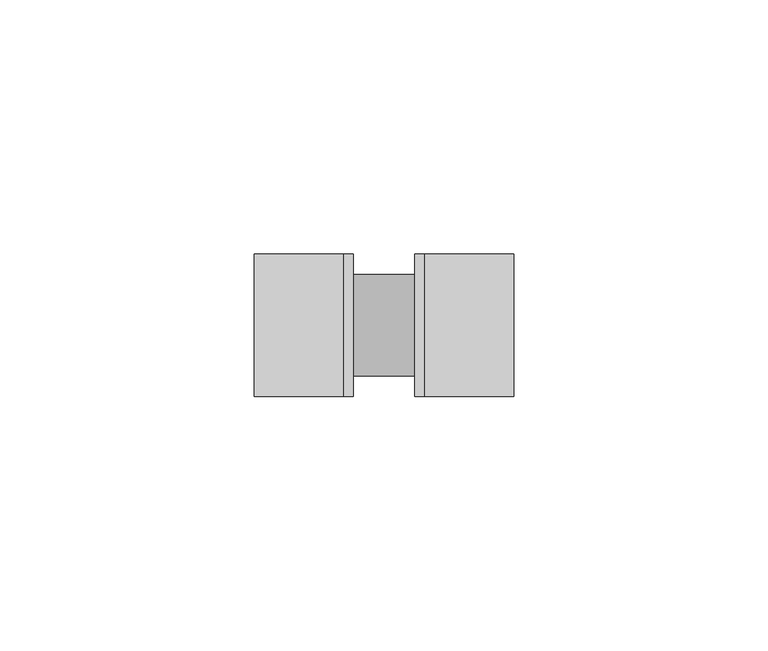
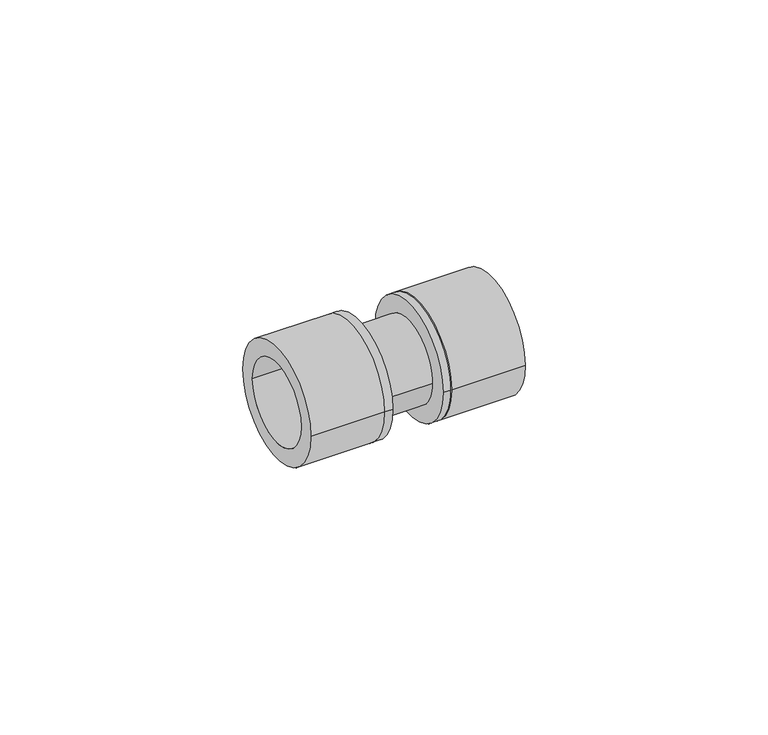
"""IFC4 building model written with IfcOpenShell, lengths in millimetres: pipe fitting geometry, ADSK_Пресс-фитинг ПЭ_Муфта соединительная : Пластик черный."""

from ifc_helpers import new_model, si_unit, point, frame, origin, origin_2d, place, context, project, spatial, circle_curve, trimmed, segment, composite_curve, outline, extrude, source, transform, mapped, element, save


def pipe_fitting_f18aa7d6(model_context):
    return source(origin(), model_context, "Body", "SweptSolid", [
        extrude(outline(composite_curve([segment(trimmed(circle_curve(origin_2d(), 14.0), [point((-14.0, 0.0))], [point((14.0, 0.0))], False, "CARTESIAN"), True, "CONTINUOUS"), segment(trimmed(circle_curve(origin_2d(), 14.0), [point((14.0, 0.0))], [point((-14.0, 0.0))], False, "CARTESIAN"), True, "CONTINUOUS")], self_intersect=False), holes=[composite_curve([segment(trimmed(circle_curve(origin_2d(), 10.0), [point((-10.0, 0.0))], [point((10.0, 0.0))], True, "CARTESIAN"), True, "CONTINUOUS"), segment(trimmed(circle_curve(origin_2d(), 10.0), [point((10.0, 0.0))], [point((-10.0, 0.0))], True, "CARTESIAN"), True, "CONTINUOUS")], self_intersect=False)]), frame((8.0, 0.0, 0.0), z_axis=(1.0, 0.0, 0.0), x_axis=(0.0, 1.0, 0.0)), (0.0, 0.0, 1.0), 17.5),
        extrude(outline(composite_curve([segment(trimmed(circle_curve(origin_2d(), 14.0), [point((-14.0, 0.0))], [point((14.0, 0.0))], False, "CARTESIAN"), True, "CONTINUOUS"), segment(trimmed(circle_curve(origin_2d(), 14.0), [point((14.0, 0.0))], [point((-14.0, 0.0))], False, "CARTESIAN"), True, "CONTINUOUS")], self_intersect=False), holes=[composite_curve([segment(trimmed(circle_curve(origin_2d(), 10.0), [point((-10.0, 0.0))], [point((10.0, 0.0))], True, "CARTESIAN"), True, "CONTINUOUS"), segment(trimmed(circle_curve(origin_2d(), 10.0), [point((10.0, 0.0))], [point((-10.0, 0.0))], True, "CARTESIAN"), True, "CONTINUOUS")], self_intersect=False)]), frame((-25.5, 0.0, 0.0), z_axis=(1.0, 0.0, 0.0), x_axis=(0.0, 1.0, 0.0)), (0.0, 0.0, 1.0), 17.5),
        extrude(outline(composite_curve([segment(trimmed(circle_curve(origin_2d(), 14.0), [point((-14.0, 0.0))], [point((14.0, 0.0))], False, "CARTESIAN"), True, "CONTINUOUS"), segment(trimmed(circle_curve(origin_2d(), 14.0), [point((14.0, 0.0))], [point((-14.0, 0.0))], False, "CARTESIAN"), True, "CONTINUOUS")], self_intersect=False)), frame((6.0, 0.0, 0.0), z_axis=(1.0, 0.0, 0.0), x_axis=(0.0, 1.0, 0.0)), (0.0, 0.0, 1.0), 2.0),
        extrude(outline(composite_curve([segment(trimmed(circle_curve(origin_2d(), 14.0), [point((-14.0, 0.0))], [point((14.0, 0.0))], False, "CARTESIAN"), True, "CONTINUOUS"), segment(trimmed(circle_curve(origin_2d(), 14.0), [point((14.0, 0.0))], [point((-14.0, 0.0))], False, "CARTESIAN"), True, "CONTINUOUS")], self_intersect=False)), frame((-8.0, 0.0, 0.0), z_axis=(1.0, 0.0, 0.0), x_axis=(0.0, 1.0, 0.0)), (0.0, 0.0, 1.0), 2.0),
        extrude(outline(composite_curve([segment(trimmed(circle_curve(origin_2d(), 10.0), [point((-10.0, 0.0))], [point((10.0, 0.0))], False, "CARTESIAN"), True, "CONTINUOUS"), segment(trimmed(circle_curve(origin_2d(), 10.0), [point((10.0, 0.0))], [point((-10.0, 0.0))], False, "CARTESIAN"), True, "CONTINUOUS")], self_intersect=False)), frame((-6.0, 0.0, 0.0), z_axis=(1.0, 0.0, 0.0), x_axis=(0.0, 1.0, 0.0)), (0.0, 0.0, 1.0), 12.0),
    ])


if __name__ == "__main__":
    model = new_model("IFC4")
    model_context = context("Model", 3, world=origin())
    ifc_project = project(units=[si_unit("LENGTHUNIT", "METRE", prefix="MILLI")], contexts=[model_context])
    site = spatial("IfcSite", under=ifc_project)
    building = spatial("IfcBuilding", under=site)
    placement = place(None, origin())
    pipe_fitting_shape = pipe_fitting_f18aa7d6(model_context)
    element("IfcPipeFitting", 1, ObjectType="ADSK_Пресс-фитинг ПЭ_Муфта соединительная : Пластик черный", at=placement, inside=building, context=model_context, shape_type="MappedRepresentation", body=[
        mapped(pipe_fitting_shape, transform((0.0, 0.0, 0.0), x_axis=(1.0, 0.0, 0.0), y_axis=(0.0, 1.0, 0.0), z_axis=(0.0, 0.0, 1.0))),
    ])
    save(model, "model.ifc")
